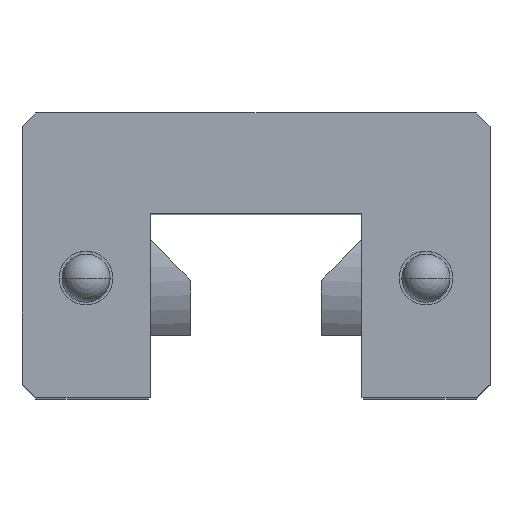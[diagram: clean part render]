
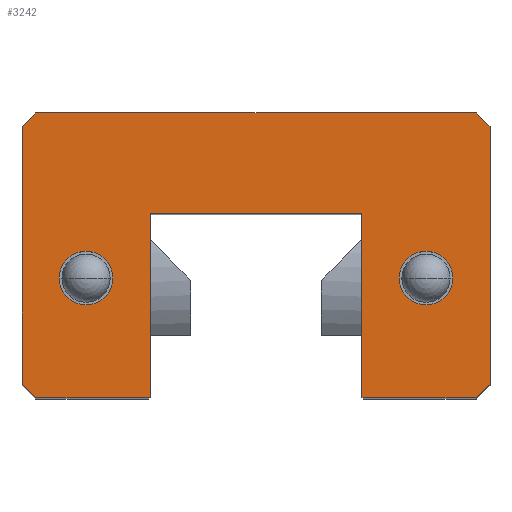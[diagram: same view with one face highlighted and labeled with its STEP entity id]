
A CAD part, top view. The second image highlights one B-rep face of the part: STEP entity #3242.
In plain terms, the highlighted planar face has unit normal (0, 0, 1).
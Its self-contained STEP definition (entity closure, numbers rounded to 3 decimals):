
#1606 = VERTEX_POINT( '', #4714 );
#1612 = VERTEX_POINT( '', #4720 );
#1682 = VERTEX_POINT( '', #4799 );
#1952 = VERTEX_POINT( '', #5100 );
#2028 = VERTEX_POINT( '', #5185 );
#2112 = EDGE_CURVE( '', #1682, #4018, #5276, .T. );
#2400 = VERTEX_POINT( '', #5608 );
#2456 = VERTEX_POINT( '', #5669 );
#2464 = EDGE_CURVE( '', #1952, #4278, #5678, .T. );
#2516 = VERTEX_POINT( '', #5736 );
#2632 = EDGE_CURVE( '', #2708, #3848, #5863, .T. );
#2706 = EDGE_CURVE( '', #1606, #2516, #5947, .T. );
#2708 = VERTEX_POINT( '', #5949 );
#3242 = ADVANCED_FACE( '', ( #6552, #6553, #6554 ), #6555, .T. );
#3252 = VERTEX_POINT( '', #6567 );
#3422 = EDGE_CURVE( '', #4524, #4016, #6755, .T. );
#3438 = EDGE_CURVE( '', #4278, #2400, #6772, .T. );
#3576 = EDGE_CURVE( '', #4214, #1952, #6927, .T. );
#3604 = EDGE_CURVE( '', #2516, #1606, #6960, .T. );
#3674 = EDGE_CURVE( '', #3862, #1612, #7035, .T. );
#3720 = EDGE_CURVE( '', #2400, #4524, #7087, .T. );
#3848 = VERTEX_POINT( '', #7231 );
#3862 = VERTEX_POINT( '', #7247 );
#3970 = EDGE_CURVE( '', #4016, #3862, #7358, .T. );
#4016 = VERTEX_POINT( '', #7412 );
#4018 = VERTEX_POINT( '', #7414 );
#4054 = EDGE_CURVE( '', #2456, #3252, #7453, .T. );
#4140 = EDGE_CURVE( '', #3848, #2708, #7548, .T. );
#4214 = VERTEX_POINT( '', #7641 );
#4278 = VERTEX_POINT( '', #7712 );
#4292 = VERTEX_POINT( '', #7727 );
#4340 = EDGE_CURVE( '', #4292, #4214, #7778, .T. );
#4524 = VERTEX_POINT( '', #7983 );
#4534 = EDGE_CURVE( '', #1612, #1682, #7994, .T. );
#4536 = EDGE_CURVE( '', #4018, #2028, #7996, .T. );
#4630 = EDGE_CURVE( '', #2028, #2456, #8101, .T. );
#4636 = EDGE_CURVE( '', #3252, #4292, #8107, .T. );
#4714 = CARTESIAN_POINT( '', ( -12.35, 10.05, 0. ) );
#4720 = CARTESIAN_POINT( '', ( -17., 4.3, 0. ) );
#4799 = CARTESIAN_POINT( '', ( -16., 3.3, 0. ) );
#5100 = CARTESIAN_POINT( '', ( 16., 3.3, 0. ) );
#5185 = CARTESIAN_POINT( '', ( -7.7, 3.4, 0. ) );
#5276 = LINE( '', #8952, #8953 );
#5608 = CARTESIAN_POINT( '', ( 17., 23., 0. ) );
#5669 = CARTESIAN_POINT( '', ( -7.7, 16.7, 0. ) );
#5678 = LINE( '', #9484, #9485 );
#5736 = CARTESIAN_POINT( '', ( -12.35, 13.95, 0. ) );
#5863 = CIRCLE( '', #9740, 1.95 );
#5947 = CIRCLE( '', #9852, 1.95 );
#5949 = CARTESIAN_POINT( '', ( 12.35, 10.05, 0. ) );
#6552 = FACE_BOUND( '', #10672, .T. );
#6553 = FACE_BOUND( '', #10673, .T. );
#6554 = FACE_OUTER_BOUND( '', #10674, .T. );
#6555 = PLANE( '', #10675 );
#6567 = CARTESIAN_POINT( '', ( 7.7, 16.7, 0. ) );
#6755 = LINE( '', #10940, #10941 );
#6772 = LINE( '', #10969, #10970 );
#6927 = LINE( '', #11187, #11188 );
#6960 = CIRCLE( '', #11232, 1.95 );
#7035 = LINE( '', #11337, #11338 );
#7087 = LINE( '', #11411, #11412 );
#7231 = CARTESIAN_POINT( '', ( 12.35, 13.95, 0. ) );
#7247 = CARTESIAN_POINT( '', ( -17., 23., 0. ) );
#7358 = LINE( '', #11793, #11794 );
#7412 = CARTESIAN_POINT( '', ( -16., 24., 0. ) );
#7414 = CARTESIAN_POINT( '', ( -7.8, 3.3, 0. ) );
#7453 = LINE( '', #11919, #11920 );
#7548 = CIRCLE( '', #12055, 1.95 );
#7641 = CARTESIAN_POINT( '', ( 7.8, 3.3, 0. ) );
#7712 = CARTESIAN_POINT( '', ( 17., 4.3, 0. ) );
#7727 = CARTESIAN_POINT( '', ( 7.7, 3.4, 0. ) );
#7778 = LINE( '', #12368, #12369 );
#7983 = CARTESIAN_POINT( '', ( 16., 24., 0. ) );
#7994 = LINE( '', #12662, #12663 );
#7996 = LINE( '', #12666, #12667 );
#8101 = LINE( '', #12811, #12812 );
#8107 = LINE( '', #12820, #12821 );
#8952 = CARTESIAN_POINT( '', ( -16., 3.3, 0. ) );
#8953 = VECTOR( '', #13508, 1. );
#9484 = CARTESIAN_POINT( '', ( 16., 3.3, 0. ) );
#9485 = VECTOR( '', #13966, 1. );
#9740 = AXIS2_PLACEMENT_3D( '', #14140, #14141, #14142 );
#9852 = AXIS2_PLACEMENT_3D( '', #14249, #14250, #14251 );
#10672 = EDGE_LOOP( '', ( #15000, #15001 ) );
#10673 = EDGE_LOOP( '', ( #15002, #15003 ) );
#10674 = EDGE_LOOP( '', ( #15004, #15005, #15006, #15007, #15008, #15009, #15010, #15011, #15012, #15013, #15014, #15015, #15016, #15017 ) );
#10675 = AXIS2_PLACEMENT_3D( '', #15018, #15019, #15020 );
#10940 = CARTESIAN_POINT( '', ( 16., 24., 0. ) );
#10941 = VECTOR( '', #15251, 1. );
#10969 = CARTESIAN_POINT( '', ( 17., 4.3, 0. ) );
#10970 = VECTOR( '', #15265, 1. );
#11187 = CARTESIAN_POINT( '', ( 7.8, 3.3, 0. ) );
#11188 = VECTOR( '', #15432, 1. );
#11232 = AXIS2_PLACEMENT_3D( '', #15488, #15489, #15490 );
#11337 = CARTESIAN_POINT( '', ( -17., 23., 0. ) );
#11338 = VECTOR( '', #15549, 1. );
#11411 = CARTESIAN_POINT( '', ( 17., 23., 0. ) );
#11412 = VECTOR( '', #15601, 1. );
#11793 = CARTESIAN_POINT( '', ( -16., 24., 0. ) );
#11794 = VECTOR( '', #15882, 1. );
#11919 = CARTESIAN_POINT( '', ( -7.7, 16.7, 0. ) );
#11920 = VECTOR( '', #15993, 1. );
#12055 = AXIS2_PLACEMENT_3D( '', #16123, #16124, #16125 );
#12368 = CARTESIAN_POINT( '', ( 7.7, 3.4, 0. ) );
#12369 = VECTOR( '', #16383, 1. );
#12662 = CARTESIAN_POINT( '', ( -17., 4.3, 0. ) );
#12663 = VECTOR( '', #16636, 1. );
#12666 = CARTESIAN_POINT( '', ( -7.8, 3.3, 0. ) );
#12667 = VECTOR( '', #16637, 1. );
#12811 = CARTESIAN_POINT( '', ( -7.7, 3.4, 0. ) );
#12812 = VECTOR( '', #16743, 1. );
#12820 = CARTESIAN_POINT( '', ( 7.7, 16.7, 0. ) );
#12821 = VECTOR( '', #16747, 1. );
#13508 = DIRECTION( '', ( 1., 0., 0. ) );
#13966 = DIRECTION( '', ( 0.707, 0.707, 0. ) );
#14140 = CARTESIAN_POINT( '', ( 12.35, 12., 0. ) );
#14141 = DIRECTION( '', ( 0., 0., -1. ) );
#14142 = DIRECTION( '', ( 0., -1., 0. ) );
#14249 = CARTESIAN_POINT( '', ( -12.35, 12., 0. ) );
#14250 = DIRECTION( '', ( 0., 0., -1. ) );
#14251 = DIRECTION( '', ( 0., -1., 0. ) );
#15000 = ORIENTED_EDGE( '', *, *, #4140, .T. );
#15001 = ORIENTED_EDGE( '', *, *, #2632, .T. );
#15002 = ORIENTED_EDGE( '', *, *, #3604, .T. );
#15003 = ORIENTED_EDGE( '', *, *, #2706, .T. );
#15004 = ORIENTED_EDGE( '', *, *, #3674, .T. );
#15005 = ORIENTED_EDGE( '', *, *, #4534, .T. );
#15006 = ORIENTED_EDGE( '', *, *, #2112, .T. );
#15007 = ORIENTED_EDGE( '', *, *, #4536, .T. );
#15008 = ORIENTED_EDGE( '', *, *, #4630, .T. );
#15009 = ORIENTED_EDGE( '', *, *, #4054, .T. );
#15010 = ORIENTED_EDGE( '', *, *, #4636, .T. );
#15011 = ORIENTED_EDGE( '', *, *, #4340, .T. );
#15012 = ORIENTED_EDGE( '', *, *, #3576, .T. );
#15013 = ORIENTED_EDGE( '', *, *, #2464, .T. );
#15014 = ORIENTED_EDGE( '', *, *, #3438, .T. );
#15015 = ORIENTED_EDGE( '', *, *, #3720, .T. );
#15016 = ORIENTED_EDGE( '', *, *, #3422, .T. );
#15017 = ORIENTED_EDGE( '', *, *, #3970, .T. );
#15018 = CARTESIAN_POINT( '', ( 0., 0., 0. ) );
#15019 = DIRECTION( '', ( 0., 0., 1. ) );
#15020 = DIRECTION( '', ( 1., 0., 0. ) );
#15251 = DIRECTION( '', ( -1., 0., 0. ) );
#15265 = DIRECTION( '', ( 0., 1., 0. ) );
#15432 = DIRECTION( '', ( 1., 0., 0. ) );
#15488 = CARTESIAN_POINT( '', ( -12.35, 12., 0. ) );
#15489 = DIRECTION( '', ( 0., 0., -1. ) );
#15490 = DIRECTION( '', ( 0., -1., 0. ) );
#15549 = DIRECTION( '', ( 0., -1., 0. ) );
#15601 = DIRECTION( '', ( -0.707, 0.707, 0. ) );
#15882 = DIRECTION( '', ( -0.707, -0.707, 0. ) );
#15993 = DIRECTION( '', ( 1., 0., 0. ) );
#16123 = CARTESIAN_POINT( '', ( 12.35, 12., 0. ) );
#16124 = DIRECTION( '', ( 0., 0., -1. ) );
#16125 = DIRECTION( '', ( 0., -1., 0. ) );
#16383 = DIRECTION( '', ( 0.707, -0.707, 0. ) );
#16636 = DIRECTION( '', ( 0.707, -0.707, 0. ) );
#16637 = DIRECTION( '', ( 0.707, 0.707, 0. ) );
#16743 = DIRECTION( '', ( 0., 1., 0. ) );
#16747 = DIRECTION( '', ( 0., -1., 0. ) );
